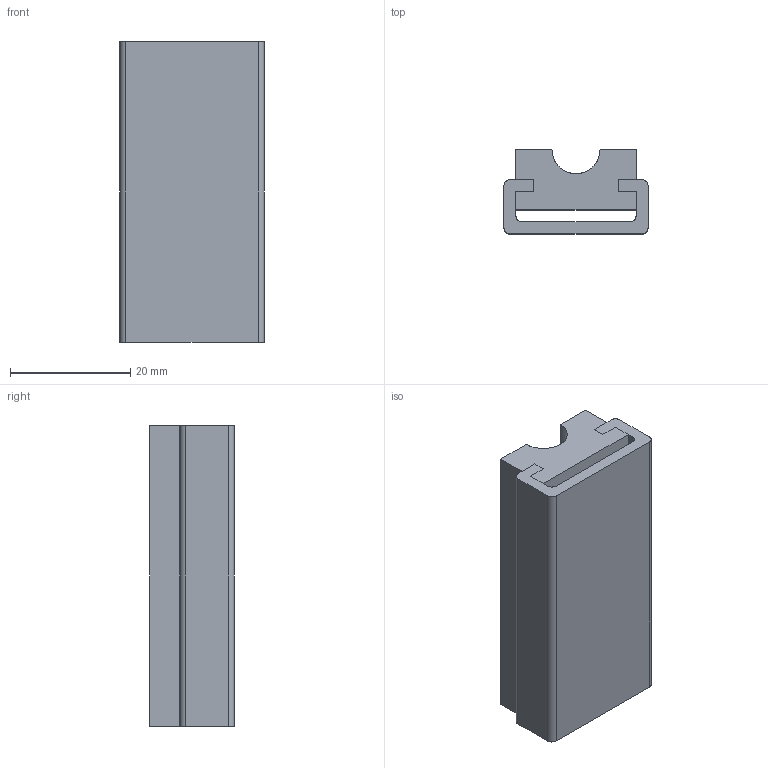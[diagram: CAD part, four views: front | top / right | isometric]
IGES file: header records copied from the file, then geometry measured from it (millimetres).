
Start section: SolidWorks IGES file using analytic representation for surfaces
Global section: file name: C:\Documents and Settings\ARGE\Desktop\yeni katalog tolgay düzenli\E kataloðu\ALPOLEN 1000 ÇELÝK PROFÝLLÝ KAYIÞ KLAVUZLARI\207 CP0 008.IGS; native system: SolidWorks 2006 by SolidWorks Corporation; preprocessor: SolidWorks 2006 by SolidWorks Corporation; author: ARGE2; date: 060912.172650; units: millimetre
Bounding box: 24 x 14 x 50 mm (x, y, z)
Surface area: 8800.4 mm2 (no closed solid volume)
Topology: 0 solids, 0 shells, 36 faces, 306 edges, 306 vertices
Faces by surface type: bspline 29, revolution 7
